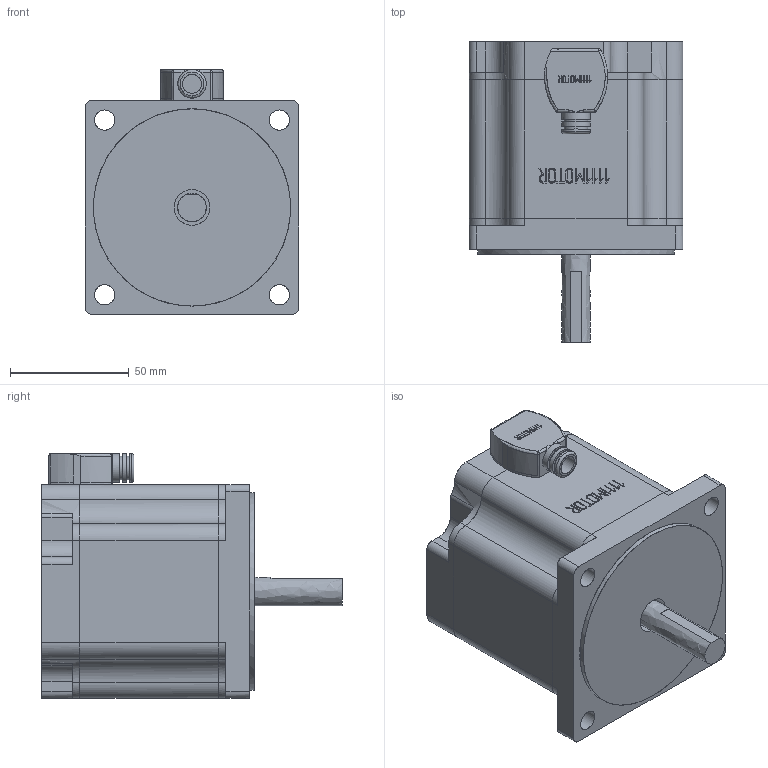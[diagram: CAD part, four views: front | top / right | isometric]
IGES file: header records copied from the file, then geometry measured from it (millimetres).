
Start section: C
Global section: file name: BL90M.igs; native system: By Siemens PLM Incorporated; preprocessor: XPlus GENERIC/IGES 17.0.49; author: Author; organization: Title; date: 20170219.230207; units: millimetre
Bounding box: 90 x 126.5 x 103 mm (x, y, z)
Surface area: 90040.2 mm2 (no closed solid volume)
Topology: 0 solids, 0 shells, 315 faces, 1986 edges, 1981 vertices
Faces by surface type: bspline 315
